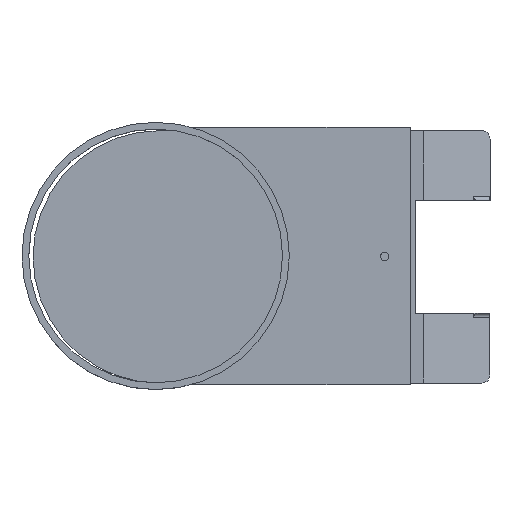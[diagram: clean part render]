
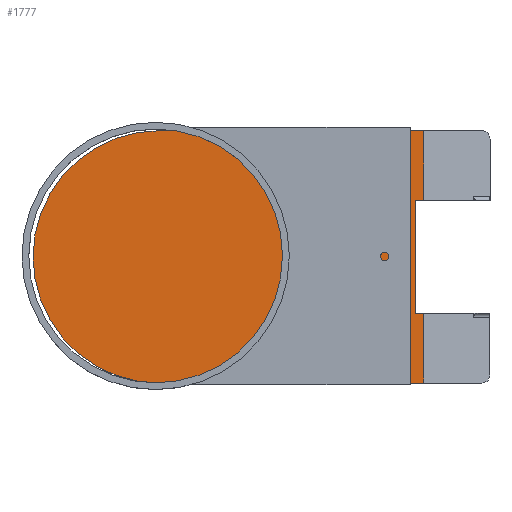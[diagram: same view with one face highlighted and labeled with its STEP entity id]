
A CAD part, top view. The second image highlights one B-rep face of the part: STEP entity #1777.
In plain terms, the highlighted planar face has unit normal (0, 0, 1) as drawn and (0, 1, 0) by its records, which use the part's own axes.
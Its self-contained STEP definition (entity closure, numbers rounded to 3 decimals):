
#774=CARTESIAN_POINT('',(-297.5,4.,148.75));
#775=VERTEX_POINT('',#774);
#782=CARTESIAN_POINT('',(0.0,4.,148.75));
#783=VERTEX_POINT('',#782);
#784=CARTESIAN_POINT('',(-148.75,4.,148.75));
#785=DIRECTION('',(0.0,1.0,0.0));
#786=DIRECTION('',(-1.0,0.0,0.0));
#787=AXIS2_PLACEMENT_3D('',#784,#785,#786);
#788=CIRCLE('',#787,148.75);
#789=EDGE_CURVE('',#783,#775,#788,.T.);
#869=CARTESIAN_POINT('',(0.,4.,460.25));
#870=VERTEX_POINT('',#869);
#871=CARTESIAN_POINT('',(0.,4.,148.75));
#872=DIRECTION('',(0.0,0.0,1.0));
#873=VECTOR('',#872,311.5);
#874=LINE('',#871,#873);
#875=EDGE_CURVE('',#783,#870,#874,.T.);
#1190=CARTESIAN_POINT('',(-215.25,4.,460.25));
#1191=VERTEX_POINT('',#1190);
#1198=CARTESIAN_POINT('',(-297.5,4.,460.25));
#1199=VERTEX_POINT('',#1198);
#1200=CARTESIAN_POINT('',(-297.5,4.,460.25));
#1201=DIRECTION('',(1.0,0.0,0.0));
#1202=VECTOR('',#1201,82.25);
#1203=LINE('',#1200,#1202);
#1204=EDGE_CURVE('',#1199,#1191,#1203,.T.);
#1462=CARTESIAN_POINT('',(-215.25,4.,450.25));
#1463=VERTEX_POINT('',#1462);
#1470=CARTESIAN_POINT('',(-215.25,4.,450.25));
#1471=DIRECTION('',(0.0,0.0,1.0));
#1472=VECTOR('',#1471,10.0);
#1473=LINE('',#1470,#1472);
#1474=EDGE_CURVE('',#1463,#1191,#1473,.T.);
#1548=CARTESIAN_POINT('',(-82.25,4.,460.25));
#1549=VERTEX_POINT('',#1548);
#1556=CARTESIAN_POINT('',(-82.25,4.,450.25));
#1557=VERTEX_POINT('',#1556);
#1558=CARTESIAN_POINT('',(-82.25,4.,450.25));
#1559=DIRECTION('',(0.0,0.0,1.0));
#1560=VECTOR('',#1559,10.0);
#1561=LINE('',#1558,#1560);
#1562=EDGE_CURVE('',#1557,#1549,#1561,.T.);
#1646=CARTESIAN_POINT('',(0.,4.,460.25));
#1647=DIRECTION('',(-1.0,0.0,0.0));
#1648=VECTOR('',#1647,82.25);
#1649=LINE('',#1646,#1648);
#1650=EDGE_CURVE('',#870,#1549,#1649,.T.);
#1690=CARTESIAN_POINT('',(-297.5,4.,148.75));
#1691=DIRECTION('',(0.0,0.0,1.0));
#1692=VECTOR('',#1691,311.5);
#1693=LINE('',#1690,#1692);
#1694=EDGE_CURVE('',#775,#1199,#1693,.T.);
#1736=CARTESIAN_POINT('',(-215.25,4.,450.25));
#1737=DIRECTION('',(1.0,0.0,0.0));
#1738=VECTOR('',#1737,133.0);
#1739=LINE('',#1736,#1738);
#1740=EDGE_CURVE('',#1463,#1557,#1739,.T.);
#1762=CARTESIAN_POINT('',(-126.25,4.,0.0));
#1763=DIRECTION('',(0.0,1.0,0.0));
#1764=DIRECTION('',(0.0,0.0,1.0));
#1765=AXIS2_PLACEMENT_3D('',#1762,#1763,#1764);
#1766=PLANE('',#1765);
#1767=ORIENTED_EDGE('',*,*,#789,.T.);
#1768=ORIENTED_EDGE('',*,*,#1694,.T.);
#1769=ORIENTED_EDGE('',*,*,#1204,.T.);
#1770=ORIENTED_EDGE('',*,*,#1474,.F.);
#1771=ORIENTED_EDGE('',*,*,#1740,.T.);
#1772=ORIENTED_EDGE('',*,*,#1562,.T.);
#1773=ORIENTED_EDGE('',*,*,#1650,.F.);
#1774=ORIENTED_EDGE('',*,*,#875,.F.);
#1775=EDGE_LOOP('',(#1767,#1768,#1769,#1770,#1771,#1772,#1773,#1774));
#1776=FACE_OUTER_BOUND('',#1775,.T.);
#1777=ADVANCED_FACE('',(#1776),#1766,.T.);
